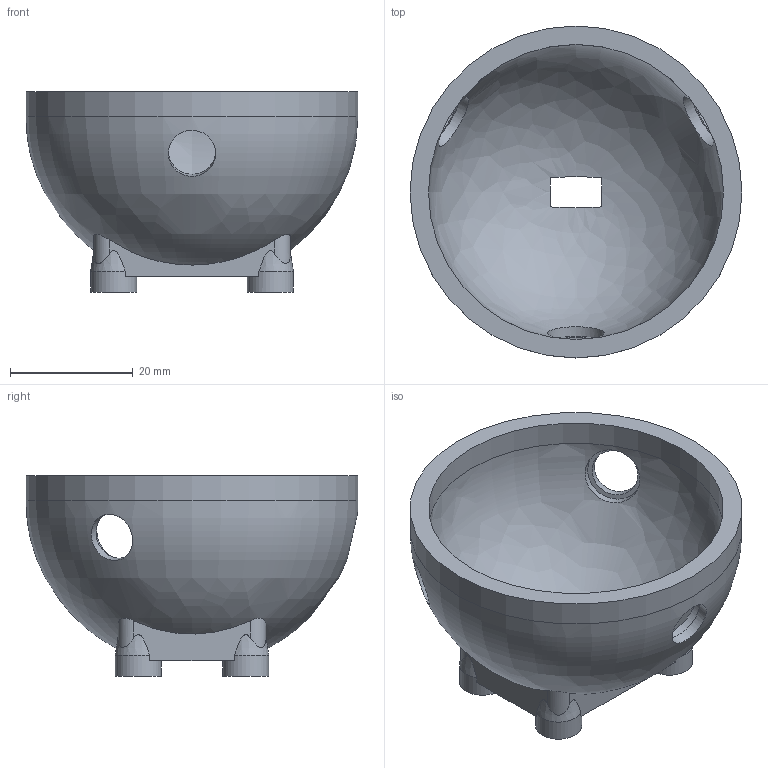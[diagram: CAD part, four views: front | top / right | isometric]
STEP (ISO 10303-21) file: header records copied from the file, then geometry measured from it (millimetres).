
FILE_DESCRIPTION(('Open CASCADE Model'),'2;1');
FILE_NAME('Open CASCADE Shape Model','2026-05-31T19:43:39',('Author'),( 'Open CASCADE'),'Open CASCADE STEP processor 7.6','Open CASCADE 7.6' ,'Unknown');
FILE_SCHEMA(('AP242_MANAGED_MODEL_BASED_3D_ENGINEERING_MIM_LF. {1 0 10303 442 1 1 4 }'));
Length unit declared in the file: millimetre
Products named in the file (1): Open CASCADE STEP translator 7.6 8
Bounding box: 54 x 54 x 32.6 mm (x, y, z)
Volume: 15030 mm3; surface area: 10846.1 mm2
Topology: 1 solids, 1 shells, 56 faces, 140 edges, 94 vertices
Faces by surface type: cylinder 24, plane 22, bspline 4, cone 4, revolution 2
Full cylindrical faces by diameter (mm): 3.5 x4, 7.5 x4, 7.7 x3, 9.2 x3, 48 x1, 54 x1
Entity records: 7928 total; most frequent: CARTESIAN_POINT 5197, DIRECTION 474, ORIENTED_EDGE 280, PCURVE 280, DEFINITIONAL_REPRESENTATION 280, LINE 230, VECTOR 230, EDGE_CURVE 140
